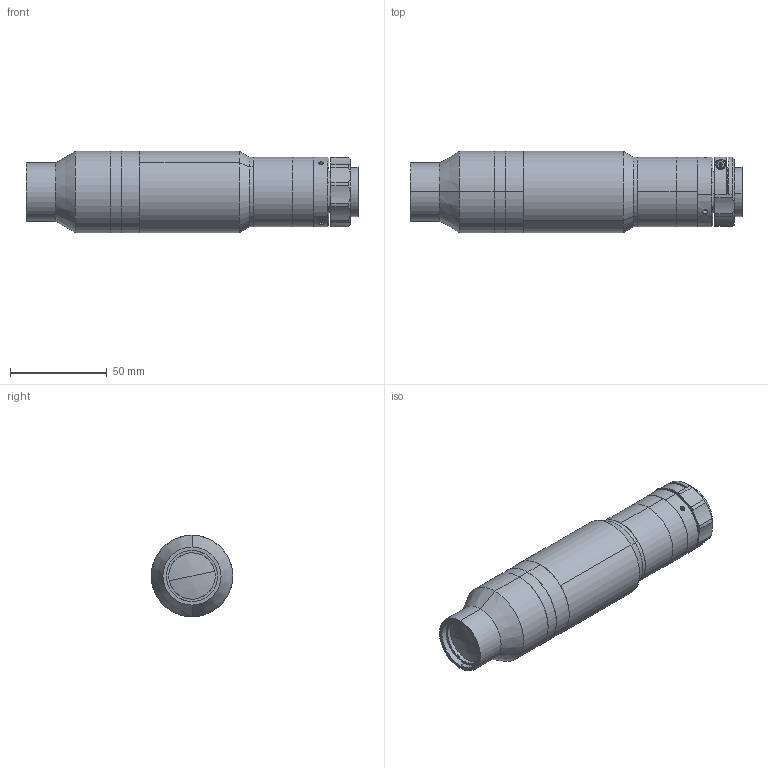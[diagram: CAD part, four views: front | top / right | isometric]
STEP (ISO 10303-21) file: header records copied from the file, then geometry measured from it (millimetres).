
FILE_DESCRIPTION (( 'STEP AP203' ), '1' );
FILE_NAME ('XF-MH03X454.STEP', '2020-08-24T07:14:15', ( 'canrill-02' ), ( '' ), 'SwSTEP 2.0', 'SolidWorks 2014', '' );
FILE_SCHEMA (( 'CONFIG_CONTROL_DESIGN' ));
Length unit declared in the file: millimetre
Products named in the file (1): XF-MH03X454
Bounding box: 171.35 x 42 x 42 mm (x, y, z)
Surface area: 27237.1 mm2 (no closed solid volume)
Topology: 0 solids, 14 shells, 110 faces, 292 edges, 199 vertices
Faces by surface type: cylinder 51, plane 38, cone 17, sphere 2, torus 2
Entity records: 3794 total; most frequent: CARTESIAN_POINT 921, DIRECTION 642, ORIENTED_EDGE 492, EDGE_CURVE 290, AXIS2_PLACEMENT_3D 264, VERTEX_POINT 199, CIRCLE 153, EDGE_LOOP 134
